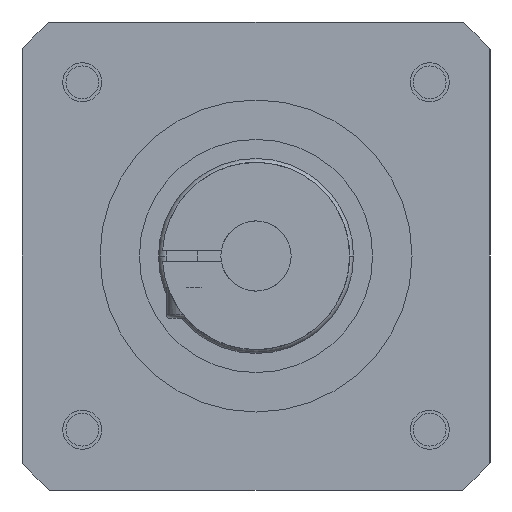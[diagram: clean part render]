
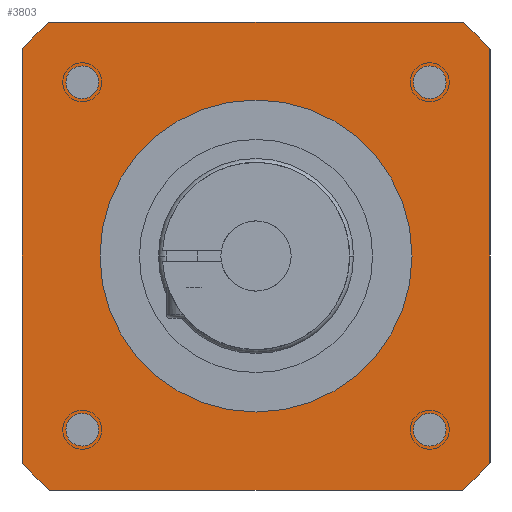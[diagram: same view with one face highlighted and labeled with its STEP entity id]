
A CAD part, left-side view. The second image highlights one B-rep face of the part: STEP entity #3803.
In plain terms, the highlighted planar face has unit normal (-1, 0, 0).
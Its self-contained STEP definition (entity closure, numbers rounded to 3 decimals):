
#519=CARTESIAN_POINT('',(0.,0.,0.));
#520=DIRECTION('',(-1.,0.,0.));
#521=DIRECTION('',(0.,-0.75,0.661));
#522=AXIS2_PLACEMENT_3D('',#519,#520,#521);
#524=DIRECTION('',(0.,0.,1.));
#525=VECTOR('',#524,52.915);
#526=CARTESIAN_POINT('',(0.,-30.,-26.458));
#527=LINE('',#526,#525);
#528=CARTESIAN_POINT('',(0.,0.,0.));
#529=DIRECTION('',(-1.,0.,0.));
#530=DIRECTION('',(0.,-0.661,-0.75));
#531=AXIS2_PLACEMENT_3D('',#528,#529,#530);
#533=DIRECTION('',(0.,-1.,0.));
#534=VECTOR('',#533,52.915);
#535=CARTESIAN_POINT('',(0.,26.458,-30.));
#536=LINE('',#535,#534);
#537=CARTESIAN_POINT('',(0.,0.,0.));
#538=DIRECTION('',(-1.,0.,0.));
#539=DIRECTION('',(0.,0.75,-0.661));
#540=AXIS2_PLACEMENT_3D('',#537,#538,#539);
#542=DIRECTION('',(0.,0.,-1.));
#543=VECTOR('',#542,52.915);
#544=CARTESIAN_POINT('',(0.,30.,26.458));
#545=LINE('',#544,#543);
#546=CARTESIAN_POINT('',(0.,0.,0.));
#547=DIRECTION('',(-1.,0.,0.));
#548=DIRECTION('',(0.,0.661,0.75));
#549=AXIS2_PLACEMENT_3D('',#546,#547,#548);
#551=DIRECTION('',(0.,1.,0.));
#552=VECTOR('',#551,52.915);
#553=CARTESIAN_POINT('',(0.,-26.458,30.));
#554=LINE('',#553,#552);
#555=CARTESIAN_POINT('',(0.,0.,0.));
#556=DIRECTION('',(1.,0.,0.));
#557=DIRECTION('',(0.,-1.,0.));
#558=AXIS2_PLACEMENT_3D('',#555,#556,#557);
#560=CARTESIAN_POINT('',(0.,0.,0.));
#561=DIRECTION('',(1.,0.,0.));
#562=DIRECTION('',(0.,1.,0.));
#563=AXIS2_PLACEMENT_3D('',#560,#561,#562);
#565=CARTESIAN_POINT('',(0.,-22.274,22.274));
#566=DIRECTION('',(-1.,0.,0.));
#567=DIRECTION('',(0.,0.,-1.));
#568=AXIS2_PLACEMENT_3D('',#565,#566,#567);
#570=CARTESIAN_POINT('',(0.,-22.274,22.274));
#571=DIRECTION('',(-1.,0.,0.));
#572=DIRECTION('',(0.,0.,1.));
#573=AXIS2_PLACEMENT_3D('',#570,#571,#572);
#575=CARTESIAN_POINT('',(0.,-22.274,-22.274));
#576=DIRECTION('',(-1.,0.,0.));
#577=DIRECTION('',(0.,0.,-1.));
#578=AXIS2_PLACEMENT_3D('',#575,#576,#577);
#580=CARTESIAN_POINT('',(0.,-22.274,-22.274));
#581=DIRECTION('',(-1.,0.,0.));
#582=DIRECTION('',(0.,0.,1.));
#583=AXIS2_PLACEMENT_3D('',#580,#581,#582);
#585=CARTESIAN_POINT('',(0.,22.274,-22.274));
#586=DIRECTION('',(-1.,0.,0.));
#587=DIRECTION('',(0.,0.,-1.));
#588=AXIS2_PLACEMENT_3D('',#585,#586,#587);
#590=CARTESIAN_POINT('',(0.,22.274,-22.274));
#591=DIRECTION('',(-1.,0.,0.));
#592=DIRECTION('',(0.,0.,1.));
#593=AXIS2_PLACEMENT_3D('',#590,#591,#592);
#595=CARTESIAN_POINT('',(0.,22.274,22.274));
#596=DIRECTION('',(-1.,0.,0.));
#597=DIRECTION('',(0.,0.,-1.));
#598=AXIS2_PLACEMENT_3D('',#595,#596,#597);
#600=CARTESIAN_POINT('',(0.,22.274,22.274));
#601=DIRECTION('',(-1.,0.,0.));
#602=DIRECTION('',(0.,0.,1.));
#603=AXIS2_PLACEMENT_3D('',#600,#601,#602);
#2621=CARTESIAN_POINT('',(0.,-30.,26.458));
#2622=CARTESIAN_POINT('',(0.,-26.458,30.));
#2623=VERTEX_POINT('',#2621);
#2624=VERTEX_POINT('',#2622);
#2625=CARTESIAN_POINT('',(0.,26.458,30.));
#2626=VERTEX_POINT('',#2625);
#2627=CARTESIAN_POINT('',(0.,30.,26.458));
#2628=VERTEX_POINT('',#2627);
#2629=CARTESIAN_POINT('',(0.,30.,-26.458));
#2630=VERTEX_POINT('',#2629);
#2631=CARTESIAN_POINT('',(0.,26.458,-30.));
#2632=VERTEX_POINT('',#2631);
#2633=CARTESIAN_POINT('',(0.,-26.458,-30.));
#2634=VERTEX_POINT('',#2633);
#2635=CARTESIAN_POINT('',(0.,-30.,-26.458));
#2636=VERTEX_POINT('',#2635);
#2637=CARTESIAN_POINT('',(0.,-20.,0.));
#2638=CARTESIAN_POINT('',(0.,20.,0.));
#2639=VERTEX_POINT('',#2637);
#2640=VERTEX_POINT('',#2638);
#2693=CARTESIAN_POINT('',(0.,-22.274,20.174));
#2694=CARTESIAN_POINT('',(0.,-22.274,24.374));
#2695=VERTEX_POINT('',#2693);
#2696=VERTEX_POINT('',#2694);
#2697=CARTESIAN_POINT('',(0.,-22.274,-24.374));
#2698=CARTESIAN_POINT('',(0.,-22.274,-20.174));
#2699=VERTEX_POINT('',#2697);
#2700=VERTEX_POINT('',#2698);
#2701=CARTESIAN_POINT('',(0.,22.274,-24.374));
#2702=CARTESIAN_POINT('',(0.,22.274,-20.174));
#2703=VERTEX_POINT('',#2701);
#2704=VERTEX_POINT('',#2702);
#2705=CARTESIAN_POINT('',(0.,22.274,20.174));
#2706=CARTESIAN_POINT('',(0.,22.274,24.374));
#2707=VERTEX_POINT('',#2705);
#2708=VERTEX_POINT('',#2706);
#3758=CARTESIAN_POINT('',(0.,0.,0.));
#3759=DIRECTION('',(-1.,0.,0.));
#3760=DIRECTION('',(0.,0.,-1.));
#3761=AXIS2_PLACEMENT_3D('',#3758,#3759,#3760);
#3762=PLANE('',#3761);
#3763=ORIENTED_EDGE('',*,*,#3648,.F.);
#3764=ORIENTED_EDGE('',*,*,#3663,.F.);
#3765=ORIENTED_EDGE('',*,*,#3677,.F.);
#3766=ORIENTED_EDGE('',*,*,#3691,.F.);
#3767=ORIENTED_EDGE('',*,*,#3711,.F.);
#3768=ORIENTED_EDGE('',*,*,#3725,.F.);
#3769=ORIENTED_EDGE('',*,*,#3739,.F.);
#3770=ORIENTED_EDGE('',*,*,#3752,.F.);
#3771=EDGE_LOOP('',(#3763,#3764,#3765,#3766,#3767,#3768,#3769,#3770));
#3772=FACE_OUTER_BOUND('',#3771,.F.);
#3774=ORIENTED_EDGE('',*,*,#3773,.F.);
#3776=ORIENTED_EDGE('',*,*,#3775,.F.);
#3777=EDGE_LOOP('',(#3774,#3776));
#3778=FACE_BOUND('',#3777,.F.);
#3780=ORIENTED_EDGE('',*,*,#3779,.T.);
#3782=ORIENTED_EDGE('',*,*,#3781,.T.);
#3783=EDGE_LOOP('',(#3780,#3782));
#3784=FACE_BOUND('',#3783,.F.);
#3786=ORIENTED_EDGE('',*,*,#3785,.T.);
#3788=ORIENTED_EDGE('',*,*,#3787,.T.);
#3789=EDGE_LOOP('',(#3786,#3788));
#3790=FACE_BOUND('',#3789,.F.);
#3792=ORIENTED_EDGE('',*,*,#3791,.T.);
#3794=ORIENTED_EDGE('',*,*,#3793,.T.);
#3795=EDGE_LOOP('',(#3792,#3794));
#3796=FACE_BOUND('',#3795,.F.);
#3798=ORIENTED_EDGE('',*,*,#3797,.T.);
#3800=ORIENTED_EDGE('',*,*,#3799,.T.);
#3801=EDGE_LOOP('',(#3798,#3800));
#3802=FACE_BOUND('',#3801,.F.);
#523=CIRCLE('',#522,40.);
#532=CIRCLE('',#531,40.);
#541=CIRCLE('',#540,40.);
#550=CIRCLE('',#549,40.);
#559=CIRCLE('',#558,20.);
#564=CIRCLE('',#563,20.);
#569=CIRCLE('',#568,2.1);
#574=CIRCLE('',#573,2.1);
#579=CIRCLE('',#578,2.1);
#584=CIRCLE('',#583,2.1);
#589=CIRCLE('',#588,2.1);
#594=CIRCLE('',#593,2.1);
#599=CIRCLE('',#598,2.1);
#604=CIRCLE('',#603,2.1);
#3648=EDGE_CURVE('',#2623,#2624,#523,.T.);
#3663=EDGE_CURVE('',#2636,#2623,#527,.T.);
#3677=EDGE_CURVE('',#2634,#2636,#532,.T.);
#3691=EDGE_CURVE('',#2632,#2634,#536,.T.);
#3711=EDGE_CURVE('',#2630,#2632,#541,.T.);
#3725=EDGE_CURVE('',#2628,#2630,#545,.T.);
#3739=EDGE_CURVE('',#2626,#2628,#550,.T.);
#3752=EDGE_CURVE('',#2624,#2626,#554,.T.);
#3773=EDGE_CURVE('',#2639,#2640,#559,.T.);
#3775=EDGE_CURVE('',#2640,#2639,#564,.T.);
#3779=EDGE_CURVE('',#2695,#2696,#569,.T.);
#3781=EDGE_CURVE('',#2696,#2695,#574,.T.);
#3785=EDGE_CURVE('',#2699,#2700,#579,.T.);
#3787=EDGE_CURVE('',#2700,#2699,#584,.T.);
#3791=EDGE_CURVE('',#2703,#2704,#589,.T.);
#3793=EDGE_CURVE('',#2704,#2703,#594,.T.);
#3797=EDGE_CURVE('',#2707,#2708,#599,.T.);
#3799=EDGE_CURVE('',#2708,#2707,#604,.T.);
#3803=ADVANCED_FACE('',(#3772,#3778,#3784,#3790,#3796,#3802),#3762,.T.);
